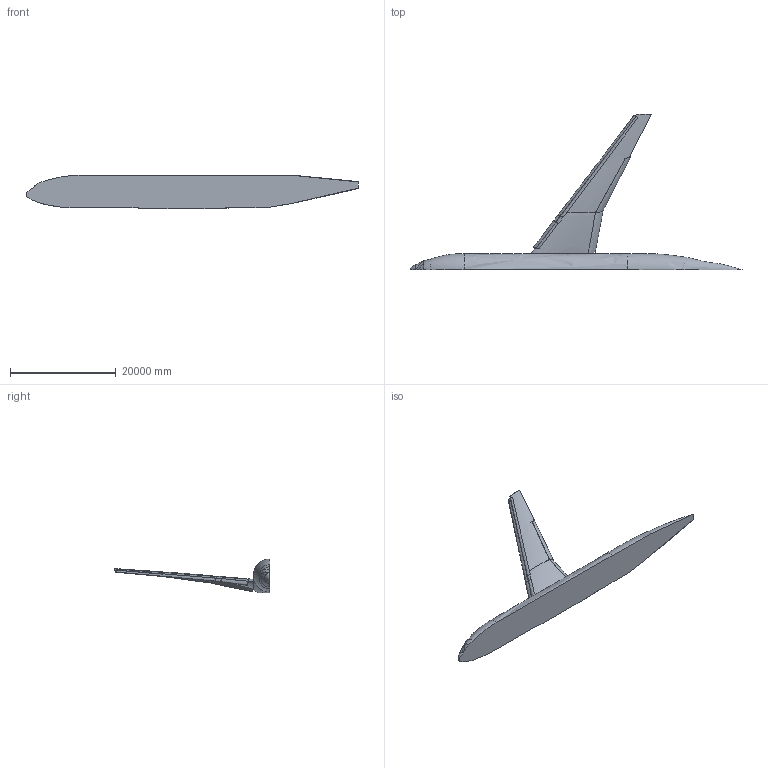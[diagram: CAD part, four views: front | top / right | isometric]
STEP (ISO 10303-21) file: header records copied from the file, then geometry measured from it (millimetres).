
FILE_DESCRIPTION(/* description */ (''),/* implementation_level */ '2;1');
FILE_NAME(/* name */ 'hl-crm-gapped-flaps5.stp',/* time_stamp */ '2017-06-22T11:59:33-04:00',/* author */ (''),/* organization */ (''),/* preprocessor_version */ 'ST-DEVELOPER v16',/* originating_system */ 'SIEMENS PLM Software NX 10.0',/* authorisation */ '');
FILE_SCHEMA (('CONFIG_CONTROL_DESIGN'));
Products named in the file (1): hl-crm-gapped-flaps5
Bounding box: 62747.73 x 29462.18 x 6405.57 mm (x, y, z)
Volume: 868311426939.2 mm3; surface area: 1297354236.2 mm2
Topology: 4 solids, 4 shells, 58 faces, 314 edges, 262 vertices
Faces by surface type: bspline 48, plane 10
Entity records: 408205 total; most frequent: CARTESIAN_POINT 406322, ORIENTED_EDGE 622, EDGE_CURVE 311, B_SPLINE_CURVE_WITH_KNOTS 304, VERTEX_POINT 262, EDGE_LOOP 59, ADVANCED_FACE 58, FACE_OUTER_BOUND 57
